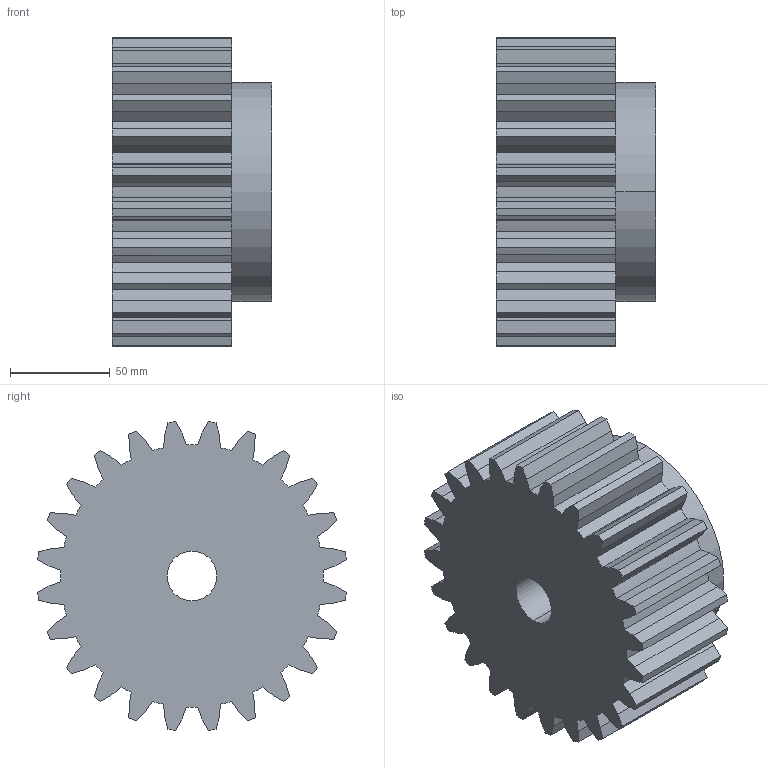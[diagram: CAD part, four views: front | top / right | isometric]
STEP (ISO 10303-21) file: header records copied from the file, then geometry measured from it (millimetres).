
FILE_DESCRIPTION (( 'STEP AP203' ), '1' );
FILE_NAME ('PM 34024.STEP', '2013-09-26T07:59:53', ( '' ), ( '' ), 'SwSTEP 2.0', 'SolidWorks 2010', '' );
FILE_SCHEMA (( 'CONFIG_CONTROL_DESIGN' ));
Length unit declared in the file: millimetre
Products named in the file (1): PM 34024
Bounding box: 80 x 155.14 x 155.14 mm (x, y, z)
Volume: 1114861.2 mm3; surface area: 95345.2 mm2
Topology: 1 solids, 1 shells, 151 faces, 444 edges, 296 vertices
Faces by surface type: plane 99, cylinder 52
Entity records: 5199 total; most frequent: CARTESIAN_POINT 1240, ORIENTED_EDGE 888, DIRECTION 716, EDGE_CURVE 444, VERTEX_POINT 296, VECTOR 244, LINE 244, AXIS2_PLACEMENT_3D 236
